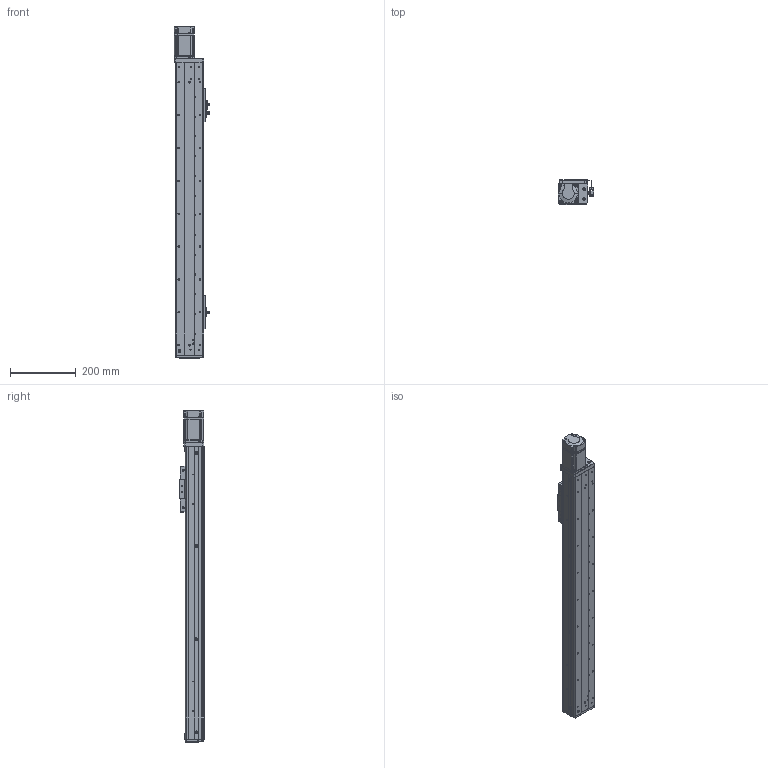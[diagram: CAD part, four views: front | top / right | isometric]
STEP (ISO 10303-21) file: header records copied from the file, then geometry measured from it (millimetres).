
FILE_DESCRIPTION (( 'STEP AP203' ), '1' );
FILE_NAME ('RY80F-L1610-300-MK.SLDASM_650.step', '2021-03-02T03:19:01', ( '盈信电脑' ), ( '东莞市道滘镇水果街19号' ), 'SwSTEP 2.0', 'SolidWorks 2012', '' );
FILE_SCHEMA (( 'CONFIG_CONTROL_DESIGN' ));
Length unit declared in the file: millimetre
Products named in the file (16): RY80俋离覜茼え; RY80F-L1610-300-MK.SLDASM_650; 覜茼ん672; 侂狟200W萇儂; 滅袉蝶18-24; 蚥薯蝶紫輸; 1; RY80F-詩湍揤踡輸; 672嫖萇羲壽假蚾釱; RY80F-綴裔啣(臏璃ㄘ; RY80F-丝杆铝滑块(16丝杆）; RY80F-300-祥凄詩湍-MK_650; RY80F-佪裝眻蟀ヶ裔啣(200W PCD70 M4); RY80F-滅鳥裔啣; RY80F-300丝杆直连型材盖板_650; RY80F-丝杆直连型材底座_650
Assembly tree (21 placements, depth 3):
  RY80F-L1610-300-MK.SLDASM_650
    RY80F-丝杆直连型材底座_650
    RY80F-300丝杆直连型材盖板_650  x2
    RY80F-丝杆铝滑块(16丝杆）
    RY80F-滅鳥裔啣
    RY80F-300-祥凄詩湍-MK_650
    RY80F-佪裝眻蟀ヶ裔啣(200W PCD70 M4)
    RY80F-詩湍揤踡輸  x2
    RY80F-綴裔啣(臏璃ㄘ
    672嫖萇羲壽假蚾釱  x2
    蚥薯蝶紫輸
    滅袉蝶18-24  x2
    侂狟200W萇儂
      1
    RY80俋离覜茼え
    覜茼ん672  x3
Bounding box: 107.2 x 75 x 1010 mm (x, y, z)
Volume: 1940646.8 mm3; surface area: 761351.2 mm2
Topology: 20 solids, 20 shells, 1725 faces, 4776 edges, 3116 vertices
Faces by surface type: plane 807, cylinder 791, cone 109, bspline 18
Entity records: 50008 total; most frequent: CARTESIAN_POINT 10913, ORIENTED_EDGE 7824, DIRECTION 7740, EDGE_CURVE 3912, AXIS2_PLACEMENT_3D 2719, VERTEX_POINT 2568, LINE 2302, VECTOR 2302
